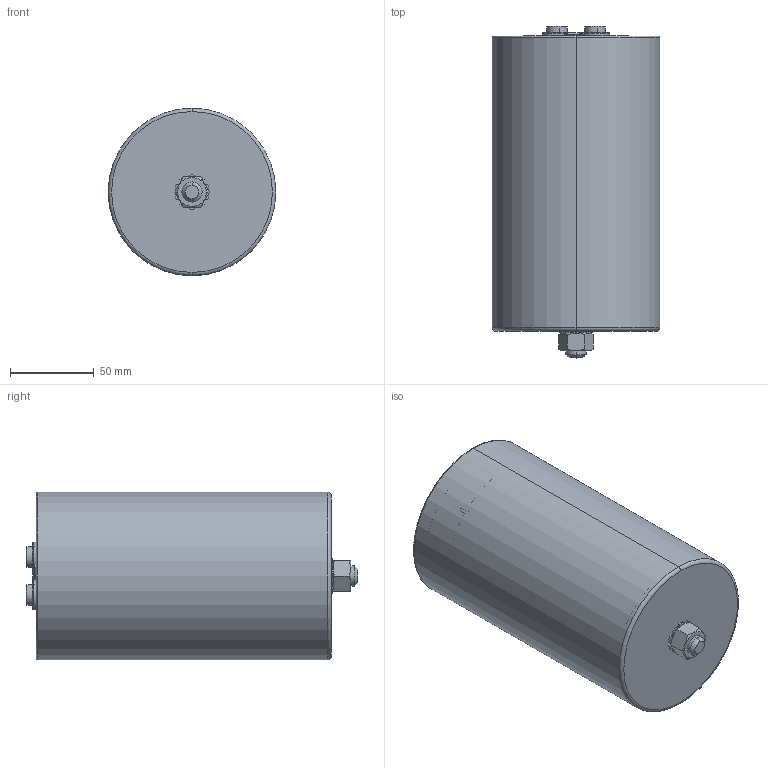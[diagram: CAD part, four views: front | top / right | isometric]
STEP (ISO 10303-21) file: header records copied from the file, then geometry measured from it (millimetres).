
FILE_DESCRIPTION (( 'STEP AP203' ), '1' );
FILE_NAME ('B25690Ax_100x176_182.STEP', '2021-09-07T02:42:02', ( '' ), ( '' ), 'SwSTEP 2.0', 'SolidWorks 2017', '' );
FILE_SCHEMA (( 'CONFIG_CONTROL_DESIGN' ));
Length unit declared in the file: millimetre
Products named in the file (1): B25690Ax_100x176_182
Bounding box: 100 x 198 x 100 mm (x, y, z)
Volume: 143759.7 mm3; surface area: 156514.8 mm2
Topology: 1 solids, 3 shells, 256 faces, 655 edges, 415 vertices
Faces by surface type: plane 133, cylinder 73, cone 40, torus 10
Entity records: 8057 total; most frequent: CARTESIAN_POINT 1865, ORIENTED_EDGE 1310, DIRECTION 1310, EDGE_CURVE 655, AXIS2_PLACEMENT_3D 516, VERTEX_POINT 415, LINE 278, VECTOR 278
